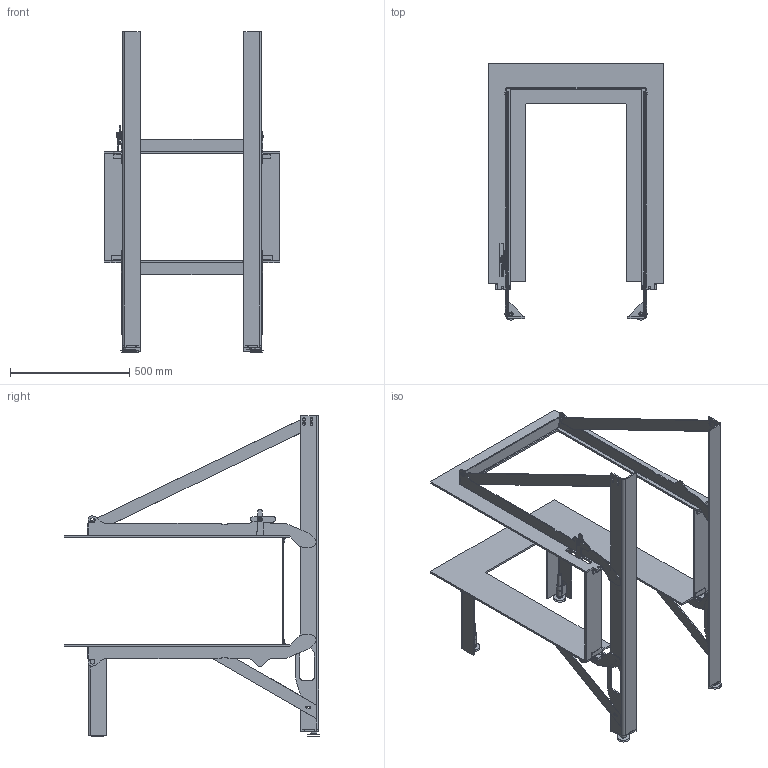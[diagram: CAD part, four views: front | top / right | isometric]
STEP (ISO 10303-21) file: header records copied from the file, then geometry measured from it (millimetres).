
FILE_DESCRIPTION(/* description */ (''),/* implementation_level */ '2;1');
FILE_NAME(/* name */ 'C:\ADSK_DM_WS\CAD_3D\03 Geraete\RIII 45x56x80\Zeichnungen\RIII 45x56x80 Einbaurahmen freistehend CAD Planung defriten 2017-00304 190919.stp',/* time_stamp */ '2019-09-19T11:27:19+02:00',/* author */ ('cpi'),/* organization */ (''),/* preprocessor_version */ 'ST-DEVELOPER v17.2',/* originating_system */ 'Autodesk Inventor 2019',/* authorisation */ '');
FILE_SCHEMA (('AUTOMOTIVE_DESIGN { 1 0 10303 214 3 1 1 }'));
Length unit declared in the file: millimetre
Products named in the file (1): 2019-02773
Bounding box: 735 x 1071.45 x 1343.5 mm (x, y, z)
Volume: 10184291.5 mm3; surface area: 3304709.2 mm2
Topology: 5 solids, 5 shells, 1028 faces, 2920 edges, 1884 vertices
Faces by surface type: plane 556, cylinder 404, cone 68
Full cylindrical faces by diameter (mm): 10 x5, 10.21 x2, 10.4 x1, 10.5 x15, 16 x6, 17 x2, 20 x2, 25 x2, 30 x4
Entity records: 34904 total; most frequent: CARTESIAN_POINT 6537, ORIENTED_EDGE 5840, DIRECTION 5826, EDGE_CURVE 2920, AXIS2_PLACEMENT_3D 2045, VERTEX_POINT 1884, LINE 1736, VECTOR 1736
